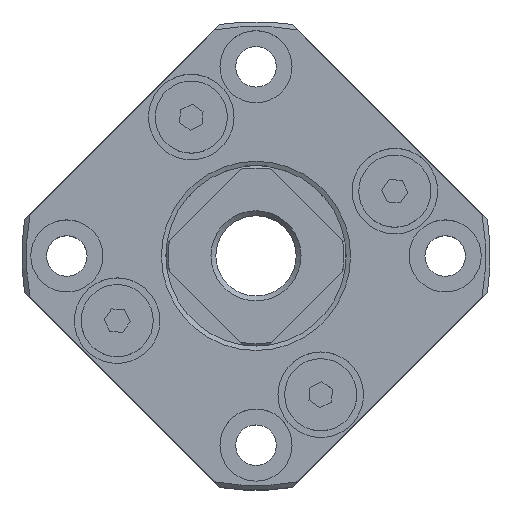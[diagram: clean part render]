
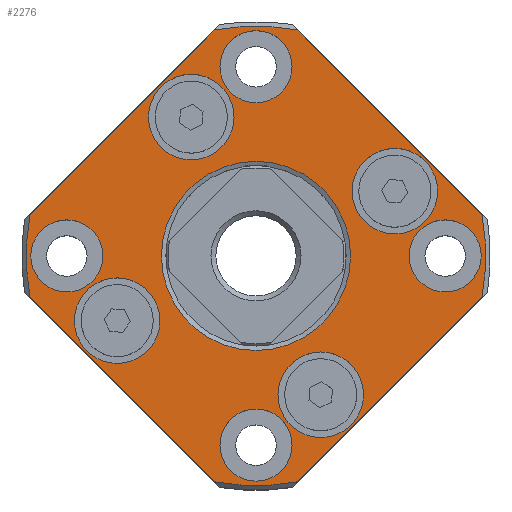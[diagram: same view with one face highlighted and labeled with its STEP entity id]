
A CAD part, top view. The second image highlights one B-rep face of the part: STEP entity #2276.
In plain terms, the highlighted planar face has unit normal (0, 0, 1) as drawn and (-1, 0, 0) by its records, which use the part's own axes.
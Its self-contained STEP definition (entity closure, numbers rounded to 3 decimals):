
#174=LINE('',#3507,#330);
#178=LINE('',#3526,#334);
#182=LINE('',#3545,#338);
#186=LINE('',#3564,#342);
#330=VECTOR('',#2780,1000.);
#334=VECTOR('',#2786,1000.);
#338=VECTOR('',#2792,1000.);
#342=VECTOR('',#2798,1000.);
#514=ORIENTED_EDGE('',*,*,#1128,.T.);
#515=ORIENTED_EDGE('',*,*,#1129,.T.);
#516=ORIENTED_EDGE('',*,*,#1130,.T.);
#517=ORIENTED_EDGE('',*,*,#1131,.T.);
#518=ORIENTED_EDGE('',*,*,#1132,.T.);
#519=ORIENTED_EDGE('',*,*,#1133,.T.);
#520=ORIENTED_EDGE('',*,*,#1134,.T.);
#521=ORIENTED_EDGE('',*,*,#1135,.T.);
#522=ORIENTED_EDGE('',*,*,#1136,.T.);
#523=ORIENTED_EDGE('',*,*,#1125,.F.);
#524=ORIENTED_EDGE('',*,*,#1137,.F.);
#525=ORIENTED_EDGE('',*,*,#1119,.F.);
#526=ORIENTED_EDGE('',*,*,#1138,.F.);
#527=ORIENTED_EDGE('',*,*,#1113,.F.);
#528=ORIENTED_EDGE('',*,*,#1139,.F.);
#529=ORIENTED_EDGE('',*,*,#1107,.F.);
#530=ORIENTED_EDGE('',*,*,#1140,.F.);
#1107=EDGE_CURVE('',#1414,#1415,#174,.T.);
#1113=EDGE_CURVE('',#1420,#1421,#178,.T.);
#1119=EDGE_CURVE('',#1426,#1427,#182,.T.);
#1125=EDGE_CURVE('',#1432,#1433,#186,.T.);
#1128=EDGE_CURVE('',#1435,#1435,#1614,.T.);
#1129=EDGE_CURVE('',#1436,#1436,#1615,.T.);
#1130=EDGE_CURVE('',#1437,#1437,#1616,.T.);
#1131=EDGE_CURVE('',#1438,#1438,#1617,.T.);
#1132=EDGE_CURVE('',#1439,#1439,#1618,.T.);
#1133=EDGE_CURVE('',#1440,#1440,#1619,.T.);
#1134=EDGE_CURVE('',#1441,#1441,#1620,.T.);
#1135=EDGE_CURVE('',#1442,#1442,#1621,.T.);
#1136=EDGE_CURVE('',#1443,#1443,#1622,.T.);
#1137=EDGE_CURVE('',#1427,#1432,#1623,.T.);
#1138=EDGE_CURVE('',#1421,#1426,#1624,.T.);
#1139=EDGE_CURVE('',#1415,#1420,#1625,.T.);
#1140=EDGE_CURVE('',#1433,#1414,#1626,.T.);
#1414=VERTEX_POINT('',#3506);
#1415=VERTEX_POINT('',#3508);
#1420=VERTEX_POINT('',#3525);
#1421=VERTEX_POINT('',#3527);
#1426=VERTEX_POINT('',#3544);
#1427=VERTEX_POINT('',#3546);
#1432=VERTEX_POINT('',#3563);
#1433=VERTEX_POINT('',#3565);
#1435=VERTEX_POINT('',#3574);
#1436=VERTEX_POINT('',#3576);
#1437=VERTEX_POINT('',#3578);
#1438=VERTEX_POINT('',#3580);
#1439=VERTEX_POINT('',#3582);
#1440=VERTEX_POINT('',#3584);
#1441=VERTEX_POINT('',#3586);
#1442=VERTEX_POINT('',#3588);
#1443=VERTEX_POINT('',#3590);
#1614=CIRCLE('',#2472,4.75);
#1615=CIRCLE('',#2473,4.75);
#1616=CIRCLE('',#2474,4.75);
#1617=CIRCLE('',#2475,4.75);
#1618=CIRCLE('',#2476,4.);
#1619=CIRCLE('',#2477,4.);
#1620=CIRCLE('',#2478,4.);
#1621=CIRCLE('',#2479,4.);
#1622=CIRCLE('',#2480,10.5);
#1623=CIRCLE('',#2481,25.5);
#1624=CIRCLE('',#2482,25.5);
#1625=CIRCLE('',#2483,25.5);
#1626=CIRCLE('',#2484,25.5);
#1736=EDGE_LOOP('',(#514));
#1737=EDGE_LOOP('',(#515));
#1738=EDGE_LOOP('',(#516));
#1739=EDGE_LOOP('',(#517));
#1740=EDGE_LOOP('',(#518));
#1741=EDGE_LOOP('',(#519));
#1742=EDGE_LOOP('',(#520));
#1743=EDGE_LOOP('',(#521));
#1744=EDGE_LOOP('',(#522));
#1745=EDGE_LOOP('',(#523,#524,#525,#526,#527,#528,#529,#530));
#1968=FACE_BOUND('',#1736,.T.);
#1969=FACE_BOUND('',#1737,.T.);
#1970=FACE_BOUND('',#1738,.T.);
#1971=FACE_BOUND('',#1739,.T.);
#1972=FACE_BOUND('',#1740,.T.);
#1973=FACE_BOUND('',#1741,.T.);
#1974=FACE_BOUND('',#1742,.T.);
#1975=FACE_BOUND('',#1743,.T.);
#1976=FACE_BOUND('',#1744,.T.);
#1977=FACE_BOUND('',#1745,.T.);
#2195=PLANE('',#2471);
#2276=ADVANCED_FACE('',(#1968,#1969,#1970,#1971,#1972,#1973,#1974,#1975,
#1976,#1977),#2195,.F.);
#2471=AXIS2_PLACEMENT_3D('',#3572,#2800,#2801);
#2472=AXIS2_PLACEMENT_3D('',#3573,#2802,#2803);
#2473=AXIS2_PLACEMENT_3D('',#3575,#2804,#2805);
#2474=AXIS2_PLACEMENT_3D('',#3577,#2806,#2807);
#2475=AXIS2_PLACEMENT_3D('',#3579,#2808,#2809);
#2476=AXIS2_PLACEMENT_3D('',#3581,#2810,#2811);
#2477=AXIS2_PLACEMENT_3D('',#3583,#2812,#2813);
#2478=AXIS2_PLACEMENT_3D('',#3585,#2814,#2815);
#2479=AXIS2_PLACEMENT_3D('',#3587,#2816,#2817);
#2480=AXIS2_PLACEMENT_3D('',#3589,#2818,#2819);
#2481=AXIS2_PLACEMENT_3D('',#3591,#2820,#2821);
#2482=AXIS2_PLACEMENT_3D('',#3592,#2822,#2823);
#2483=AXIS2_PLACEMENT_3D('',#3593,#2824,#2825);
#2484=AXIS2_PLACEMENT_3D('',#3594,#2826,#2827);
#2780=DIRECTION('',(0.,-0.707,-0.707));
#2786=DIRECTION('',(0.,0.707,-0.707));
#2792=DIRECTION('',(0.,0.707,0.707));
#2798=DIRECTION('',(0.,-0.707,0.707));
#2800=DIRECTION('',(1.,0.,0.));
#2801=DIRECTION('',(0.,0.,-1.));
#2802=DIRECTION('',(1.,0.,0.));
#2803=DIRECTION('',(0.,0.,-1.));
#2804=DIRECTION('',(1.,0.,0.));
#2805=DIRECTION('',(0.,0.,-1.));
#2806=DIRECTION('',(1.,0.,0.));
#2807=DIRECTION('',(0.,0.,-1.));
#2808=DIRECTION('',(1.,0.,0.));
#2809=DIRECTION('',(0.,0.,-1.));
#2810=DIRECTION('',(1.,0.,0.));
#2811=DIRECTION('',(0.,0.,-1.));
#2812=DIRECTION('',(1.,0.,0.));
#2813=DIRECTION('',(0.,0.,-1.));
#2814=DIRECTION('',(1.,0.,0.));
#2815=DIRECTION('',(0.,0.,-1.));
#2816=DIRECTION('',(1.,0.,0.));
#2817=DIRECTION('',(0.,0.,-1.));
#2818=DIRECTION('',(1.,0.,0.));
#2819=DIRECTION('',(0.,0.,-1.));
#2820=DIRECTION('',(1.,0.,0.));
#2821=DIRECTION('',(0.,0.,-1.));
#2822=DIRECTION('',(1.,0.,0.));
#2823=DIRECTION('',(0.,0.,-1.));
#2824=DIRECTION('',(1.,0.,0.));
#2825=DIRECTION('',(0.,0.,-1.));
#2826=DIRECTION('',(1.,0.,0.));
#2827=DIRECTION('',(0.,0.,-1.));
#3506=CARTESIAN_POINT('',(-10.,-4.621,25.078));
#3507=CARTESIAN_POINT('',(-10.,0.,29.698));
#3508=CARTESIAN_POINT('',(-10.,-25.078,4.621));
#3525=CARTESIAN_POINT('',(-10.,-25.078,-4.621));
#3526=CARTESIAN_POINT('',(-10.,-29.698,0.));
#3527=CARTESIAN_POINT('',(-10.,-4.621,-25.078));
#3544=CARTESIAN_POINT('',(-10.,4.621,-25.078));
#3545=CARTESIAN_POINT('',(-10.,0.,-29.698));
#3546=CARTESIAN_POINT('',(-10.,25.078,-4.621));
#3563=CARTESIAN_POINT('',(-10.,25.078,4.621));
#3564=CARTESIAN_POINT('',(-10.,29.698,0.));
#3565=CARTESIAN_POINT('',(-10.,4.621,25.078));
#3572=CARTESIAN_POINT('',(-10.,10.,0.));
#3573=CARTESIAN_POINT('',(-10.,-7.185,-15.407));
#3574=CARTESIAN_POINT('',(-10.,-7.185,-20.157));
#3575=CARTESIAN_POINT('',(-10.,7.185,15.407));
#3576=CARTESIAN_POINT('',(-10.,7.185,10.657));
#3577=CARTESIAN_POINT('',(-10.,-15.407,7.185));
#3578=CARTESIAN_POINT('',(-10.,-15.407,2.435));
#3579=CARTESIAN_POINT('',(-10.,15.407,-7.185));
#3580=CARTESIAN_POINT('',(-10.,15.407,-11.935));
#3581=CARTESIAN_POINT('',(-10.,0.,21.));
#3582=CARTESIAN_POINT('',(-10.,0.,17.));
#3583=CARTESIAN_POINT('',(-10.,-21.,0.));
#3584=CARTESIAN_POINT('',(-10.,-21.,-4.));
#3585=CARTESIAN_POINT('',(-10.,0.,-21.));
#3586=CARTESIAN_POINT('',(-10.,0.,-25.));
#3587=CARTESIAN_POINT('',(-10.,21.,0.));
#3588=CARTESIAN_POINT('',(-10.,21.,-4.));
#3589=CARTESIAN_POINT('',(-10.,0.,0.));
#3590=CARTESIAN_POINT('',(-10.,0.,-10.5));
#3591=CARTESIAN_POINT('',(-10.,0.,0.));
#3592=CARTESIAN_POINT('',(-10.,0.,0.));
#3593=CARTESIAN_POINT('',(-10.,0.,0.));
#3594=CARTESIAN_POINT('',(-10.,0.,0.));
